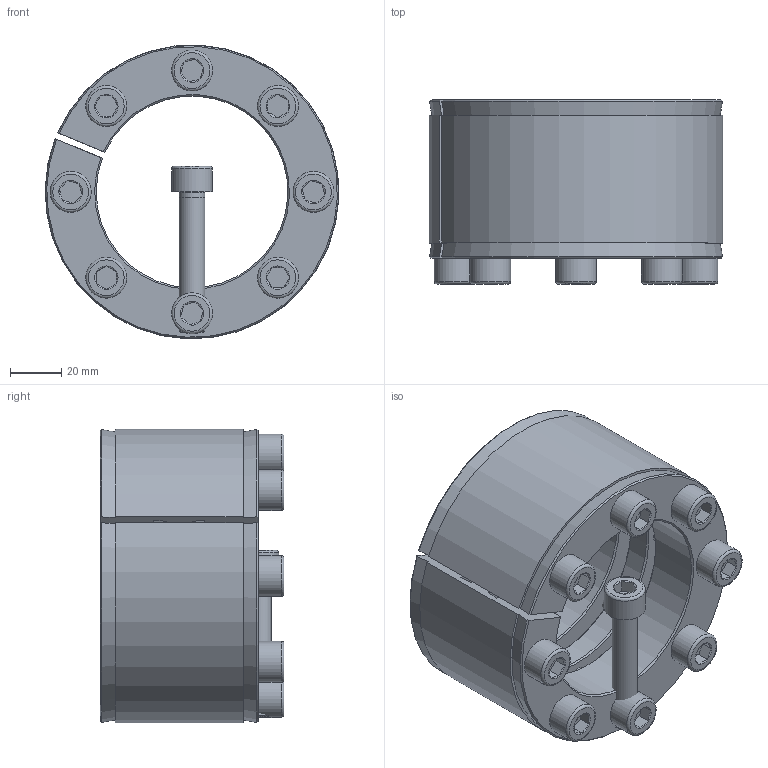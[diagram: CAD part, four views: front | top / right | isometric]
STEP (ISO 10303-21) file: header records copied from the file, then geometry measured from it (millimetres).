
FILE_DESCRIPTION( ( 'Unknown' ), '1' );
FILE_NAME( 'C:/Users/Frank/Eigene Daten/CAD/Solid Edge/KBK Karpstein/KBS Layout Baureihen/KBS 18/KBS - 75 x 115.stp', 'Unknown', ( 'Unknown' ), ( 'Unknown' ), 'XStep 1.0', 'Unknown', ' ' );
FILE_SCHEMA( ( 'automotive_design' ) );
Length unit declared in the file: millimetre
Products named in the file (3): Assem1; ISO EN DIN 4762 M10x55; KBS 18 - 75 x 115
Bounding box: 114.92 x 72 x 114.87 mm (x, y, z)
Volume: 622126 mm3; surface area: 181266.8 mm2
Topology: 11 solids, 11 shells, 341 faces, 777 edges, 462 vertices
Faces by surface type: plane 144, cylinder 92, cone 87, torus 18
Full cylindrical faces by diameter (mm): 8.376 x16, 9 x9, 10 x18, 11 x32, 16 x9
Entity records: 3270 total; most frequent: CARTESIAN_POINT 645, DIRECTION 464, ORIENTED_EDGE 390, AXIS2_PLACEMENT_3D 214, EDGE_CURVE 195, EDGE_LOOP 150, VERTEX_POINT 135, CIRCLE 121
